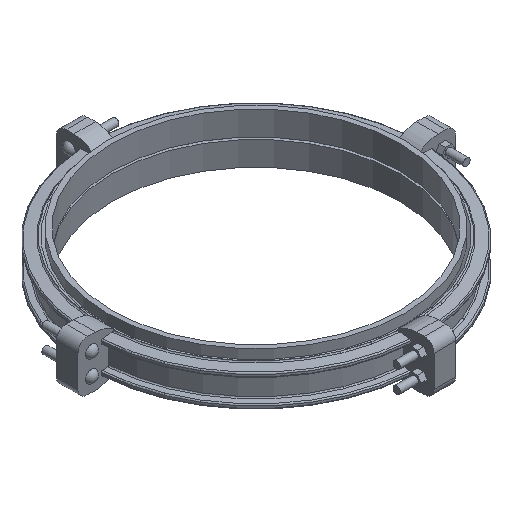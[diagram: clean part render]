
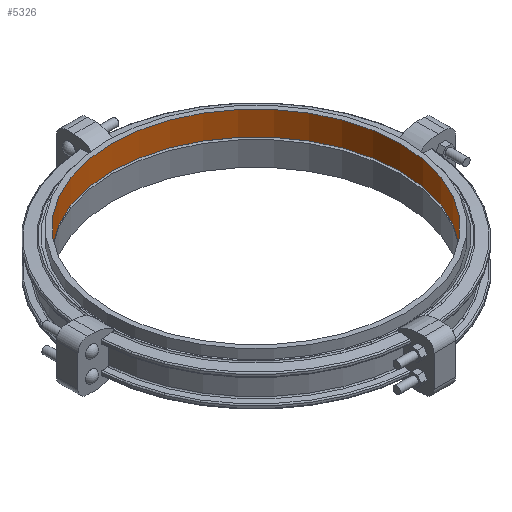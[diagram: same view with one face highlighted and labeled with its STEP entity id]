
A CAD part, isometric view. The second image highlights one B-rep face of the part: STEP entity #5326.
In plain terms, the highlighted cylindrical face has radius 762 mm (diameter 1524 mm), a full revolution.
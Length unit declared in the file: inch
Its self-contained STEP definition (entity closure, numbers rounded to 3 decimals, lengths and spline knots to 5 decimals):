
#270=CYLINDRICAL_SURFACE('',#5937,30.);
#588=FACE_OUTER_BOUND('',#906,.T.);
#906=EDGE_LOOP('',(#4630,#4631,#4632,#4633,#4634,#4635));
#1291=LINE('',#10065,#1674);
#1674=VECTOR('',#7388,30.);
#1927=CIRCLE('',#5935,30.);
#1928=CIRCLE('',#5936,30.);
#1929=CIRCLE('',#5938,30.);
#1930=CIRCLE('',#5939,30.);
#2431=VERTEX_POINT('',#10059);
#2432=VERTEX_POINT('',#10060);
#2433=VERTEX_POINT('',#10064);
#2434=VERTEX_POINT('',#10066);
#3165=EDGE_CURVE('',#2431,#2432,#1927,.T.);
#3166=EDGE_CURVE('',#2432,#2431,#1928,.T.);
#3167=EDGE_CURVE('',#2432,#2433,#1291,.T.);
#3168=EDGE_CURVE('',#2434,#2433,#1929,.T.);
#3169=EDGE_CURVE('',#2433,#2434,#1930,.T.);
#4630=ORIENTED_EDGE('',*,*,#3165,.T.);
#4631=ORIENTED_EDGE('',*,*,#3167,.T.);
#4632=ORIENTED_EDGE('',*,*,#3168,.F.);
#4633=ORIENTED_EDGE('',*,*,#3169,.F.);
#4634=ORIENTED_EDGE('',*,*,#3167,.F.);
#4635=ORIENTED_EDGE('',*,*,#3166,.T.);
#5326=ADVANCED_FACE('',(#588),#270,.F.);
#5935=AXIS2_PLACEMENT_3D('',#10061,#7382,#7383);
#5936=AXIS2_PLACEMENT_3D('',#10062,#7384,#7385);
#5937=AXIS2_PLACEMENT_3D('',#10063,#7386,#7387);
#5938=AXIS2_PLACEMENT_3D('',#10067,#7389,#7390);
#5939=AXIS2_PLACEMENT_3D('',#10068,#7391,#7392);
#7382=DIRECTION('center_axis',(0.,0.,-1.));
#7383=DIRECTION('ref_axis',(1.,0.,0.));
#7384=DIRECTION('center_axis',(0.,0.,-1.));
#7385=DIRECTION('ref_axis',(1.,0.,0.));
#7386=DIRECTION('center_axis',(0.,0.,-1.));
#7387=DIRECTION('ref_axis',(0.,1.,0.));
#7388=DIRECTION('',(0.,0.,1.));
#7389=DIRECTION('center_axis',(0.,0.,-1.));
#7390=DIRECTION('ref_axis',(1.,0.,0.));
#7391=DIRECTION('center_axis',(0.,0.,-1.));
#7392=DIRECTION('ref_axis',(1.,0.,0.));
#10059=CARTESIAN_POINT('',(0.,30.,0.));
#10060=CARTESIAN_POINT('',(0.,-30.,0.));
#10061=CARTESIAN_POINT('Origin',(0.,0.,0.));
#10062=CARTESIAN_POINT('Origin',(0.,0.,0.));
#10063=CARTESIAN_POINT('Origin',(0.,0.,2.5));
#10064=CARTESIAN_POINT('',(0.,-30.,5.));
#10065=CARTESIAN_POINT('',(0.,-30.,2.5));
#10066=CARTESIAN_POINT('',(0.,30.,5.));
#10067=CARTESIAN_POINT('Origin',(0.,0.,5.));
#10068=CARTESIAN_POINT('Origin',(0.,0.,5.));
